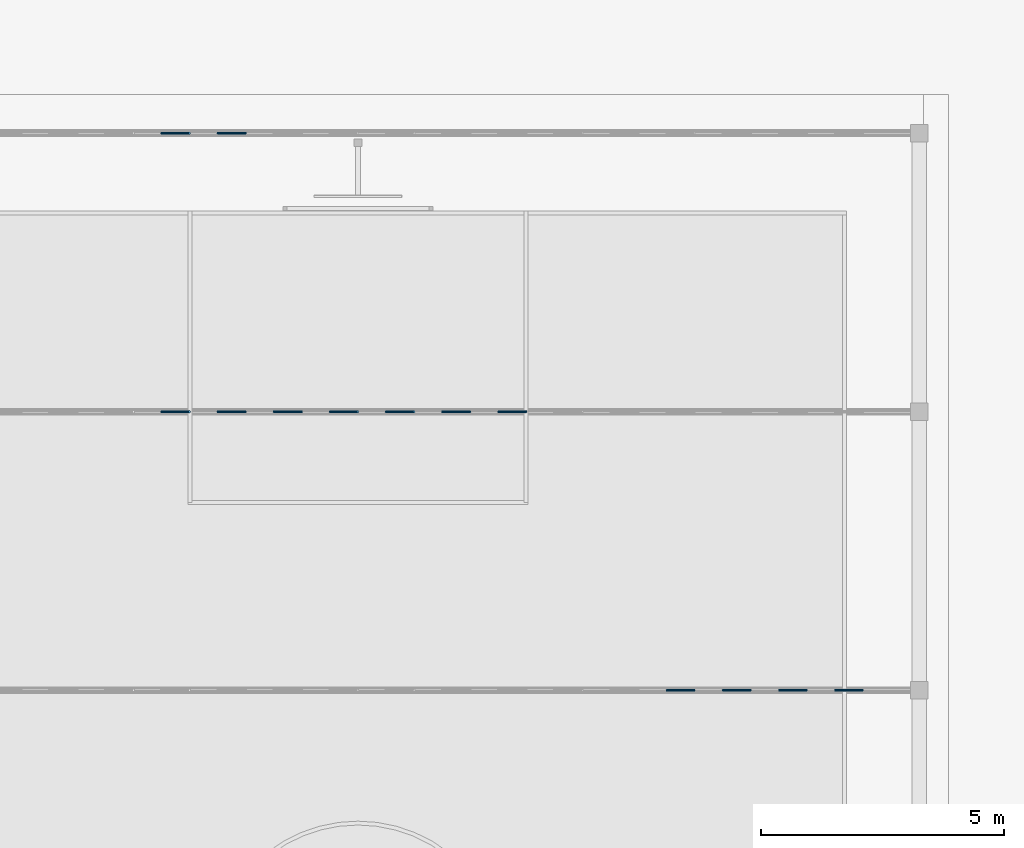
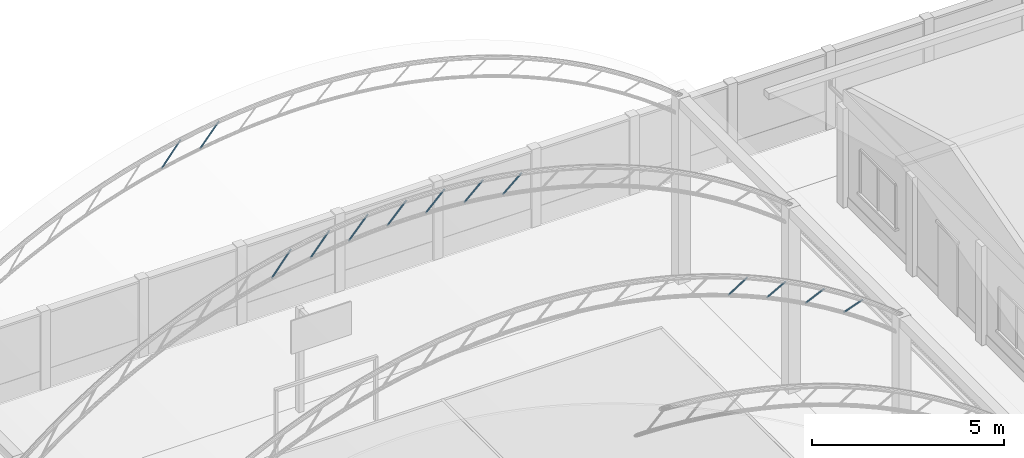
# One storey, part 29 of 151: 13 beams.
"""IFC2X3 building model written with IfcOpenShell, lengths in metres."""

from ifc_helpers import new_model, si_unit, origin, origin_with_axes, place, context, subcontext, project, spatial, faceted_brep, element, save


model = new_model("IFC2X3")

# Units and contexts
model_context = context("Model", 3, precision=1e-05, world=origin_with_axes())
body_context = subcontext(model_context, "Body", "Model", "MODEL_VIEW")
ifc_project = project(units=[si_unit("LENGTHUNIT", "METRE"), si_unit("AREAUNIT", "SQUARE_METRE"), si_unit("VOLUMEUNIT", "CUBIC_METRE"), si_unit("PLANEANGLEUNIT", "RADIAN")], contexts=[model_context])

# Site, building, storey
site_placement = place(None, origin_with_axes())
site = spatial("IfcSite", under=ifc_project, at=site_placement, Name="Predio Los Mangos - Morales, San Martín", CompositionType="ELEMENT")
building_placement = place(site_placement, origin())
building = spatial("IfcBuilding", under=site, at=building_placement, Name="Hogar de Refugio Temporal", CompositionType="ELEMENT")
storey_placement = place(building_placement, origin())
storey = spatial("IfcBuildingStorey", under=building, at=storey_placement, Name="NIVEL 1 (NPT +0.00)", CompositionType="ELEMENT", Elevation=0.0)

# Beams
beam_1_placement = place(storey_placement, origin())
element("IfcBeam", 1, at=beam_1_placement, inside=storey, Name="diag", ObjectType="Viga", context=body_context, shape_type="Brep", body=[
    faceted_brep([(21.3958, 115.555, 8.401), (21.9733, 115.555, 8.7715), (21.98, 115.5583, 8.7609), (21.4025, 115.5583, 8.3905), (21.3908, 115.5458, 8.4087), (21.9683, 115.5458, 8.7792), (21.389, 115.5333, 8.4115), (21.9665, 115.5333, 8.782), (21.3908, 115.5208, 8.4087), (21.9683, 115.5208, 8.7792), (21.3958, 115.5117, 8.401), (21.9733, 115.5117, 8.7715), (21.4025, 115.5083, 8.3905), (21.98, 115.5083, 8.7609), (21.4092, 115.5117, 8.38), (21.9867, 115.5117, 8.7504), (21.4142, 115.5208, 8.3723), (21.9917, 115.5208, 8.7427), (21.416, 115.5333, 8.3695), (21.9935, 115.5333, 8.7399), (21.4142, 115.5458, 8.3723), (21.9917, 115.5458, 8.7427), (21.4092, 115.555, 8.38), (21.9867, 115.555, 8.7504), (21.4013, 115.5371, 8.3923), (21.4025, 115.5376, 8.3905), (21.98, 115.5376, 8.7609), (21.9788, 115.5371, 8.7627), (21.4005, 115.5355, 8.3936), (21.978, 115.5355, 8.7641), (21.4002, 115.5333, 8.3941), (21.9777, 115.5333, 8.7645), (21.4005, 115.5312, 8.3936), (21.978, 115.5312, 8.7641), (21.4013, 115.5296, 8.3923), (21.9788, 115.5296, 8.7627), (21.4025, 115.529, 8.3905), (21.98, 115.529, 8.7609), (21.4037, 115.5296, 8.3887), (21.9812, 115.5296, 8.7591), (21.4045, 115.5312, 8.3874), (21.982, 115.5312, 8.7578), (21.4048, 115.5333, 8.3869), (21.9823, 115.5333, 8.7573), (21.4045, 115.5355, 8.3874), (21.982, 115.5355, 8.7578), (21.4037, 115.5371, 8.3887), (21.9812, 115.5371, 8.7591)], [[[0, 1, 2, 3]], [[4, 5, 1, 0]], [[6, 7, 5, 4]], [[8, 9, 7, 6]], [[10, 11, 9, 8]], [[12, 13, 11, 10]], [[14, 15, 13, 12]], [[16, 17, 15, 14]], [[18, 19, 17, 16]], [[20, 21, 19, 18]], [[22, 23, 21, 20]], [[3, 2, 23, 22]], [[24, 25, 26, 27]], [[28, 24, 27, 29]], [[30, 28, 29, 31]], [[32, 30, 31, 33]], [[34, 32, 33, 35]], [[36, 34, 35, 37]], [[38, 36, 37, 39]], [[40, 38, 39, 41]], [[42, 40, 41, 43]], [[44, 42, 43, 45]], [[46, 44, 45, 47]], [[25, 46, 47, 26]], [[0, 3, 25, 24]], [[9, 11, 35, 33]], [[19, 21, 45, 43]], [[12, 10, 34, 36]], [[22, 20, 44, 46]], [[5, 7, 31, 29]], [[15, 17, 41, 39]], [[2, 1, 27, 26]], [[8, 6, 30, 32]], [[18, 16, 40, 42]], [[11, 13, 37, 35]], [[21, 23, 47, 45]], [[4, 0, 24, 28]], [[14, 12, 36, 38]], [[3, 22, 46, 25]], [[7, 9, 33, 31]], [[17, 19, 43, 41]], [[23, 2, 26, 47]], [[10, 8, 32, 34]], [[20, 18, 42, 44]], [[1, 5, 29, 27]], [[13, 15, 39, 37]], [[6, 4, 28, 30]], [[16, 14, 38, 40]]]),
])
beam_2_placement = place(storey_placement, origin())
element("IfcBeam", 2, at=beam_2_placement, inside=storey, Name="diag", ObjectType="Viga", context=body_context, shape_type="Brep", body=[
    faceted_brep([(22.5514, 115.555, 7.9187), (23.1289, 115.555, 8.2407), (23.135, 115.5583, 8.2298), (22.5575, 115.5583, 7.9077), (22.547, 115.5458, 7.9267), (23.1245, 115.5458, 8.2487), (22.5453, 115.5333, 7.9296), (23.1228, 115.5333, 8.2517), (22.547, 115.5208, 7.9267), (23.1245, 115.5208, 8.2487), (22.5514, 115.5117, 7.9187), (23.1289, 115.5117, 8.2407), (22.5575, 115.5083, 7.9077), (23.135, 115.5083, 8.2298), (22.5636, 115.5117, 7.8968), (23.1411, 115.5117, 8.2189), (22.568, 115.5208, 7.8888), (23.1455, 115.5208, 8.2109), (22.5697, 115.5333, 7.8859), (23.1472, 115.5333, 8.208), (22.568, 115.5458, 7.8888), (23.1455, 115.5458, 8.2109), (22.5636, 115.555, 7.8968), (23.1411, 115.555, 8.2189), (22.5565, 115.5371, 7.9096), (22.5575, 115.5376, 7.9077), (23.135, 115.5376, 8.2298), (23.134, 115.5371, 8.2317), (22.5557, 115.5355, 7.911), (23.1332, 115.5355, 8.2331), (22.5554, 115.5333, 7.9115), (23.1329, 115.5333, 8.2336), (22.5557, 115.5312, 7.911), (23.1332, 115.5312, 8.2331), (22.5565, 115.5296, 7.9096), (23.134, 115.5296, 8.2317), (22.5575, 115.529, 7.9077), (23.135, 115.529, 8.2298), (22.5585, 115.5296, 7.9059), (23.136, 115.5296, 8.228), (22.5593, 115.5312, 7.9045), (23.1368, 115.5312, 8.2266), (22.5596, 115.5333, 7.904), (23.1371, 115.5333, 8.2261), (22.5593, 115.5355, 7.9045), (23.1368, 115.5355, 8.2266), (22.5585, 115.5371, 7.9059), (23.136, 115.5371, 8.228)], [[[0, 1, 2, 3]], [[4, 5, 1, 0]], [[6, 7, 5, 4]], [[8, 9, 7, 6]], [[10, 11, 9, 8]], [[12, 13, 11, 10]], [[14, 15, 13, 12]], [[16, 17, 15, 14]], [[18, 19, 17, 16]], [[20, 21, 19, 18]], [[22, 23, 21, 20]], [[3, 2, 23, 22]], [[24, 25, 26, 27]], [[28, 24, 27, 29]], [[30, 28, 29, 31]], [[32, 30, 31, 33]], [[34, 32, 33, 35]], [[36, 34, 35, 37]], [[38, 36, 37, 39]], [[40, 38, 39, 41]], [[42, 40, 41, 43]], [[44, 42, 43, 45]], [[46, 44, 45, 47]], [[25, 46, 47, 26]], [[0, 3, 25, 24]], [[9, 11, 35, 33]], [[19, 21, 45, 43]], [[12, 10, 34, 36]], [[22, 20, 44, 46]], [[5, 7, 31, 29]], [[15, 17, 41, 39]], [[2, 1, 27, 26]], [[8, 6, 30, 32]], [[18, 16, 40, 42]], [[11, 13, 37, 35]], [[21, 23, 47, 45]], [[4, 0, 24, 28]], [[14, 12, 36, 38]], [[3, 22, 46, 25]], [[7, 9, 33, 31]], [[17, 19, 43, 41]], [[23, 2, 26, 47]], [[10, 8, 32, 34]], [[20, 18, 42, 44]], [[1, 5, 29, 27]], [[13, 15, 39, 37]], [[6, 4, 28, 30]], [[16, 14, 38, 40]]]),
])
beam_3_placement = place(storey_placement, origin())
element("IfcBeam", 3, at=beam_3_placement, inside=storey, Name="diag", ObjectType="Viga", context=body_context, shape_type="Brep", body=[
    faceted_brep([(23.7072, 115.555, 7.3372), (24.2847, 115.555, 7.6056), (24.29, 115.5583, 7.5943), (23.7125, 115.5583, 7.3259), (23.7034, 115.5458, 7.3455), (24.2809, 115.5458, 7.6139), (23.702, 115.5333, 7.3485), (24.2795, 115.5333, 7.617), (23.7034, 115.5208, 7.3455), (24.2809, 115.5208, 7.6139), (23.7072, 115.5117, 7.3372), (24.2847, 115.5117, 7.6056), (23.7125, 115.5083, 7.3259), (24.29, 115.5083, 7.5943), (23.7178, 115.5117, 7.3145), (24.2953, 115.5117, 7.583), (23.7216, 115.5208, 7.3062), (24.2991, 115.5208, 7.5747), (23.723, 115.5333, 7.3032), (24.3005, 115.5333, 7.5716), (23.7216, 115.5458, 7.3062), (24.2991, 115.5458, 7.5747), (23.7178, 115.555, 7.3145), (24.2953, 115.555, 7.583), (23.7116, 115.5371, 7.3278), (23.7125, 115.5376, 7.3259), (24.29, 115.5376, 7.5943), (24.2891, 115.5371, 7.5963), (23.7109, 115.5355, 7.3292), (24.2884, 115.5355, 7.5977), (23.7107, 115.5333, 7.3298), (24.2882, 115.5333, 7.5982), (23.7109, 115.5312, 7.3292), (24.2884, 115.5312, 7.5977), (23.7116, 115.5296, 7.3278), (24.2891, 115.5296, 7.5963), (23.7125, 115.529, 7.3259), (24.29, 115.529, 7.5943), (23.7134, 115.5296, 7.3239), (24.2909, 115.5296, 7.5924), (23.7141, 115.5312, 7.3225), (24.2916, 115.5312, 7.5909), (23.7143, 115.5333, 7.322), (24.2918, 115.5333, 7.5904), (23.7141, 115.5355, 7.3225), (24.2916, 115.5355, 7.5909), (23.7134, 115.5371, 7.3239), (24.2909, 115.5371, 7.5924)], [[[0, 1, 2, 3]], [[4, 5, 1, 0]], [[6, 7, 5, 4]], [[8, 9, 7, 6]], [[10, 11, 9, 8]], [[12, 13, 11, 10]], [[14, 15, 13, 12]], [[16, 17, 15, 14]], [[18, 19, 17, 16]], [[20, 21, 19, 18]], [[22, 23, 21, 20]], [[3, 2, 23, 22]], [[24, 25, 26, 27]], [[28, 24, 27, 29]], [[30, 28, 29, 31]], [[32, 30, 31, 33]], [[34, 32, 33, 35]], [[36, 34, 35, 37]], [[38, 36, 37, 39]], [[40, 38, 39, 41]], [[42, 40, 41, 43]], [[44, 42, 43, 45]], [[46, 44, 45, 47]], [[25, 46, 47, 26]], [[0, 3, 25, 24]], [[9, 11, 35, 33]], [[19, 21, 45, 43]], [[12, 10, 34, 36]], [[22, 20, 44, 46]], [[5, 7, 31, 29]], [[15, 17, 41, 39]], [[2, 1, 27, 26]], [[8, 6, 30, 32]], [[18, 16, 40, 42]], [[11, 13, 37, 35]], [[21, 23, 47, 45]], [[4, 0, 24, 28]], [[14, 12, 36, 38]], [[3, 22, 46, 25]], [[7, 9, 33, 31]], [[17, 19, 43, 41]], [[23, 2, 26, 47]], [[10, 8, 32, 34]], [[20, 18, 42, 44]], [[1, 5, 29, 27]], [[13, 15, 39, 37]], [[6, 4, 28, 30]], [[16, 14, 38, 40]]]),
])
beam_4_placement = place(storey_placement, origin())
element("IfcBeam", 4, at=beam_4_placement, inside=storey, Name="diag", ObjectType="Viga", context=body_context, shape_type="Brep", body=[
    faceted_brep([(24.8633, 115.555, 6.6451), (25.4408, 115.555, 6.8526), (25.445, 115.5583, 6.8408), (24.8675, 115.5583, 6.6333), (24.8602, 115.5458, 6.6537), (25.4377, 115.5458, 6.8612), (24.859, 115.5333, 6.6569), (25.4365, 115.5333, 6.8643), (24.8602, 115.5208, 6.6537), (25.4377, 115.5208, 6.8612), (24.8633, 115.5117, 6.6451), (25.4408, 115.5117, 6.8526), (24.8675, 115.5083, 6.6333), (25.445, 115.5083, 6.8408), (24.8717, 115.5117, 6.6216), (25.4492, 115.5117, 6.829), (24.8748, 115.5208, 6.613), (25.4523, 115.5208, 6.8204), (24.876, 115.5333, 6.6098), (25.4535, 115.5333, 6.8173), (24.8748, 115.5458, 6.613), (25.4523, 115.5458, 6.8204), (24.8717, 115.555, 6.6216), (25.4492, 115.555, 6.829), (24.8668, 115.5371, 6.6354), (24.8675, 115.5376, 6.6333), (25.445, 115.5376, 6.8408), (25.4443, 115.5371, 6.8428), (24.8662, 115.5355, 6.6368), (25.4437, 115.5355, 6.8443), (24.866, 115.5333, 6.6374), (25.4435, 115.5333, 6.8449), (24.8662, 115.5312, 6.6368), (25.4437, 115.5312, 6.8443), (24.8668, 115.5296, 6.6354), (25.4443, 115.5296, 6.8428), (24.8675, 115.529, 6.6333), (25.445, 115.529, 6.8408), (24.8682, 115.5296, 6.6313), (25.4457, 115.5296, 6.8388), (24.8688, 115.5312, 6.6298), (25.4463, 115.5312, 6.8373), (24.869, 115.5333, 6.6293), (25.4465, 115.5333, 6.8368), (24.8688, 115.5355, 6.6298), (25.4463, 115.5355, 6.8373), (24.8682, 115.5371, 6.6313), (25.4457, 115.5371, 6.8388)], [[[0, 1, 2, 3]], [[4, 5, 1, 0]], [[6, 7, 5, 4]], [[8, 9, 7, 6]], [[10, 11, 9, 8]], [[12, 13, 11, 10]], [[14, 15, 13, 12]], [[16, 17, 15, 14]], [[18, 19, 17, 16]], [[20, 21, 19, 18]], [[22, 23, 21, 20]], [[3, 2, 23, 22]], [[24, 25, 26, 27]], [[28, 24, 27, 29]], [[30, 28, 29, 31]], [[32, 30, 31, 33]], [[34, 32, 33, 35]], [[36, 34, 35, 37]], [[38, 36, 37, 39]], [[40, 38, 39, 41]], [[42, 40, 41, 43]], [[44, 42, 43, 45]], [[46, 44, 45, 47]], [[25, 46, 47, 26]], [[0, 3, 25, 24]], [[9, 11, 35, 33]], [[19, 21, 45, 43]], [[12, 10, 34, 36]], [[22, 20, 44, 46]], [[5, 7, 31, 29]], [[15, 17, 41, 39]], [[2, 1, 27, 26]], [[8, 6, 30, 32]], [[18, 16, 40, 42]], [[11, 13, 37, 35]], [[21, 23, 47, 45]], [[4, 0, 24, 28]], [[14, 12, 36, 38]], [[3, 22, 46, 25]], [[7, 9, 33, 31]], [[17, 19, 43, 41]], [[23, 2, 26, 47]], [[10, 8, 32, 34]], [[20, 18, 42, 44]], [[1, 5, 29, 27]], [[13, 15, 39, 37]], [[6, 4, 28, 30]], [[16, 14, 38, 40]]]),
])
beam_5_placement = place(storey_placement, origin())
element("IfcBeam", 5, at=beam_5_placement, inside=storey, Name="diag", ObjectType="Viga", context=body_context, shape_type="Brep", body=[
    faceted_brep([(10.9977, 121.2883, 9.0975), (11.5752, 121.2883, 9.8208), (11.585, 121.2917, 9.813), (11.0075, 121.2917, 9.0897), (10.9906, 121.2792, 9.1032), (11.5681, 121.2792, 9.8265), (10.988, 121.2667, 9.1053), (11.5655, 121.2667, 9.8286), (10.9906, 121.2542, 9.1032), (11.5681, 121.2542, 9.8265), (10.9977, 121.245, 9.0975), (11.5752, 121.245, 9.8208), (11.0075, 121.2417, 9.0897), (11.585, 121.2417, 9.813), (11.0173, 121.245, 9.0819), (11.5948, 121.245, 9.8052), (11.0244, 121.2542, 9.0762), (11.6019, 121.2542, 9.7995), (11.027, 121.2667, 9.0741), (11.6045, 121.2667, 9.7974), (11.0244, 121.2792, 9.0762), (11.6019, 121.2792, 9.7995), (11.0173, 121.2883, 9.0819), (11.5948, 121.2883, 9.8052), (11.0058, 121.2704, 9.091), (11.0075, 121.271, 9.0897), (11.585, 121.271, 9.813), (11.5833, 121.2704, 9.8143), (11.0046, 121.2688, 9.092), (11.5821, 121.2688, 9.8153), (11.0041, 121.2667, 9.0924), (11.5816, 121.2667, 9.8157), (11.0046, 121.2645, 9.092), (11.5821, 121.2645, 9.8153), (11.0058, 121.2629, 9.091), (11.5833, 121.2629, 9.8143), (11.0075, 121.2624, 9.0897), (11.585, 121.2624, 9.813), (11.0092, 121.2629, 9.0884), (11.5867, 121.2629, 9.8116), (11.0104, 121.2645, 9.0874), (11.5879, 121.2645, 9.8107), (11.0109, 121.2667, 9.087), (11.5884, 121.2667, 9.8103), (11.0104, 121.2688, 9.0874), (11.5879, 121.2688, 9.8107), (11.0092, 121.2704, 9.0884), (11.5867, 121.2704, 9.8116)], [[[0, 1, 2, 3]], [[4, 5, 1, 0]], [[6, 7, 5, 4]], [[8, 9, 7, 6]], [[10, 11, 9, 8]], [[12, 13, 11, 10]], [[14, 15, 13, 12]], [[16, 17, 15, 14]], [[18, 19, 17, 16]], [[20, 21, 19, 18]], [[22, 23, 21, 20]], [[3, 2, 23, 22]], [[24, 25, 26, 27]], [[28, 24, 27, 29]], [[30, 28, 29, 31]], [[32, 30, 31, 33]], [[34, 32, 33, 35]], [[36, 34, 35, 37]], [[38, 36, 37, 39]], [[40, 38, 39, 41]], [[42, 40, 41, 43]], [[44, 42, 43, 45]], [[46, 44, 45, 47]], [[25, 46, 47, 26]], [[20, 18, 42, 44]], [[1, 5, 29, 27]], [[13, 15, 39, 37]], [[6, 4, 28, 30]], [[16, 14, 38, 40]], [[0, 3, 25, 24]], [[9, 11, 35, 33]], [[19, 21, 45, 43]], [[12, 10, 34, 36]], [[22, 20, 44, 46]], [[5, 7, 31, 29]], [[15, 17, 41, 39]], [[2, 1, 27, 26]], [[8, 6, 30, 32]], [[18, 16, 40, 42]], [[11, 13, 37, 35]], [[21, 23, 47, 45]], [[4, 0, 24, 28]], [[14, 12, 36, 38]], [[3, 22, 46, 25]], [[7, 9, 33, 31]], [[17, 19, 43, 41]], [[23, 2, 26, 47]], [[10, 8, 32, 34]]]),
])
beam_6_placement = place(storey_placement, origin())
element("IfcBeam", 6, at=beam_6_placement, inside=storey, Name="diag", ObjectType="Viga", context=body_context, shape_type="Brep", body=[
    faceted_brep([(12.1529, 121.2883, 9.3247), (12.7304, 121.2883, 10.0091), (12.74, 121.2917, 10.001), (12.1625, 121.2917, 9.3166), (12.146, 121.2792, 9.3306), (12.7235, 121.2792, 10.015), (12.1434, 121.2667, 9.3328), (12.7209, 121.2667, 10.0171), (12.146, 121.2542, 9.3306), (12.7235, 121.2542, 10.015), (12.1529, 121.245, 9.3247), (12.7304, 121.245, 10.0091), (12.1625, 121.2417, 9.3166), (12.74, 121.2417, 10.001), (12.1721, 121.245, 9.3086), (12.7496, 121.245, 9.9929), (12.179, 121.2542, 9.3027), (12.7565, 121.2542, 9.987), (12.1816, 121.2667, 9.3005), (12.7591, 121.2667, 9.9849), (12.179, 121.2792, 9.3027), (12.7565, 121.2792, 9.987), (12.1721, 121.2883, 9.3086), (12.7496, 121.2883, 9.9929), (12.1609, 121.2704, 9.318), (12.1625, 121.271, 9.3166), (12.74, 121.271, 10.001), (12.7384, 121.2704, 10.0024), (12.1597, 121.2688, 9.319), (12.7372, 121.2688, 10.0034), (12.1592, 121.2667, 9.3194), (12.7367, 121.2667, 10.0038), (12.1597, 121.2645, 9.319), (12.7372, 121.2645, 10.0034), (12.1609, 121.2629, 9.318), (12.7384, 121.2629, 10.0024), (12.1625, 121.2624, 9.3166), (12.74, 121.2624, 10.001), (12.1641, 121.2629, 9.3153), (12.7416, 121.2629, 9.9996), (12.1653, 121.2645, 9.3142), (12.7428, 121.2645, 9.9986), (12.1658, 121.2667, 9.3139), (12.7433, 121.2667, 9.9982), (12.1653, 121.2688, 9.3142), (12.7428, 121.2688, 9.9986), (12.1641, 121.2704, 9.3153), (12.7416, 121.2704, 9.9996)], [[[0, 1, 2, 3]], [[4, 5, 1, 0]], [[6, 7, 5, 4]], [[8, 9, 7, 6]], [[10, 11, 9, 8]], [[12, 13, 11, 10]], [[14, 15, 13, 12]], [[16, 17, 15, 14]], [[18, 19, 17, 16]], [[20, 21, 19, 18]], [[22, 23, 21, 20]], [[3, 2, 23, 22]], [[24, 25, 26, 27]], [[28, 24, 27, 29]], [[30, 28, 29, 31]], [[32, 30, 31, 33]], [[34, 32, 33, 35]], [[36, 34, 35, 37]], [[38, 36, 37, 39]], [[40, 38, 39, 41]], [[42, 40, 41, 43]], [[44, 42, 43, 45]], [[46, 44, 45, 47]], [[25, 46, 47, 26]], [[12, 10, 34, 36]], [[22, 20, 44, 46]], [[5, 7, 31, 29]], [[15, 17, 41, 39]], [[2, 1, 27, 26]], [[8, 6, 30, 32]], [[18, 16, 40, 42]], [[11, 13, 37, 35]], [[21, 23, 47, 45]], [[4, 0, 24, 28]], [[14, 12, 36, 38]], [[3, 22, 46, 25]], [[7, 9, 33, 31]], [[17, 19, 43, 41]], [[23, 2, 26, 47]], [[10, 8, 32, 34]], [[20, 18, 42, 44]], [[1, 5, 29, 27]], [[13, 15, 39, 37]], [[6, 4, 28, 30]], [[16, 14, 38, 40]], [[0, 3, 25, 24]], [[9, 11, 35, 33]], [[19, 21, 45, 43]]]),
])
beam_7_placement = place(storey_placement, origin())
element("IfcBeam", 7, at=beam_7_placement, inside=storey, Name="diag", ObjectType="Viga", context=body_context, shape_type="Brep", body=[
    faceted_brep([(13.3082, 121.2883, 9.4747), (13.8857, 121.2883, 10.1212), (13.895, 121.2917, 10.1129), (13.3175, 121.2917, 9.4663), (13.3014, 121.2792, 9.4808), (13.8789, 121.2792, 10.1273), (13.2989, 121.2667, 9.483), (13.8764, 121.2667, 10.1295), (13.3014, 121.2542, 9.4808), (13.8789, 121.2542, 10.1273), (13.3082, 121.245, 9.4747), (13.8857, 121.245, 10.1212), (13.3175, 121.2417, 9.4663), (13.895, 121.2417, 10.1129), (13.3268, 121.245, 9.458), (13.9043, 121.245, 10.1045), (13.3336, 121.2542, 9.4519), (13.9111, 121.2542, 10.0984), (13.3361, 121.2667, 9.4497), (13.9136, 121.2667, 10.0962), (13.3336, 121.2792, 9.4519), (13.9111, 121.2792, 10.0984), (13.3268, 121.2883, 9.458), (13.9043, 121.2883, 10.1045), (13.3159, 121.2704, 9.4678), (13.3175, 121.271, 9.4663), (13.895, 121.271, 10.1129), (13.8934, 121.2704, 10.1143), (13.3147, 121.2688, 9.4688), (13.8922, 121.2688, 10.1153), (13.3143, 121.2667, 9.4692), (13.8918, 121.2667, 10.1157), (13.3147, 121.2645, 9.4688), (13.8922, 121.2645, 10.1153), (13.3159, 121.2629, 9.4678), (13.8934, 121.2629, 10.1143), (13.3175, 121.2624, 9.4663), (13.895, 121.2624, 10.1129), (13.3191, 121.2629, 9.4649), (13.8966, 121.2629, 10.1114), (13.3203, 121.2645, 9.4639), (13.8978, 121.2645, 10.1104), (13.3207, 121.2667, 9.4635), (13.8982, 121.2667, 10.11), (13.3203, 121.2688, 9.4639), (13.8978, 121.2688, 10.1104), (13.3191, 121.2704, 9.4649), (13.8966, 121.2704, 10.1114)], [[[0, 1, 2, 3]], [[4, 5, 1, 0]], [[6, 7, 5, 4]], [[8, 9, 7, 6]], [[10, 11, 9, 8]], [[12, 13, 11, 10]], [[14, 15, 13, 12]], [[16, 17, 15, 14]], [[18, 19, 17, 16]], [[20, 21, 19, 18]], [[22, 23, 21, 20]], [[3, 2, 23, 22]], [[24, 25, 26, 27]], [[28, 24, 27, 29]], [[30, 28, 29, 31]], [[32, 30, 31, 33]], [[34, 32, 33, 35]], [[36, 34, 35, 37]], [[38, 36, 37, 39]], [[40, 38, 39, 41]], [[42, 40, 41, 43]], [[44, 42, 43, 45]], [[46, 44, 45, 47]], [[25, 46, 47, 26]], [[12, 10, 34, 36]], [[22, 20, 44, 46]], [[5, 7, 31, 29]], [[15, 17, 41, 39]], [[2, 1, 27, 26]], [[8, 6, 30, 32]], [[18, 16, 40, 42]], [[11, 13, 37, 35]], [[21, 23, 47, 45]], [[4, 0, 24, 28]], [[14, 12, 36, 38]], [[3, 22, 46, 25]], [[7, 9, 33, 31]], [[17, 19, 43, 41]], [[23, 2, 26, 47]], [[10, 8, 32, 34]], [[20, 18, 42, 44]], [[1, 5, 29, 27]], [[13, 15, 39, 37]], [[6, 4, 28, 30]], [[16, 14, 38, 40]], [[0, 3, 25, 24]], [[9, 11, 35, 33]], [[19, 21, 45, 43]]]),
])
beam_8_placement = place(storey_placement, origin())
element("IfcBeam", 8, at=beam_8_placement, inside=storey, Name="diag", ObjectType="Viga", context=body_context, shape_type="Brep", body=[
    faceted_brep([(14.4634, 121.2883, 9.5493), (15.0409, 121.2883, 10.1586), (15.05, 121.2917, 10.15), (14.4725, 121.2917, 9.5407), (14.4568, 121.2792, 9.5556), (15.0343, 121.2792, 10.1649), (14.4544, 121.2667, 9.5579), (15.0319, 121.2667, 10.1672), (14.4568, 121.2542, 9.5556), (15.0343, 121.2542, 10.1649), (14.4634, 121.245, 9.5493), (15.0409, 121.245, 10.1586), (14.4725, 121.2417, 9.5407), (15.05, 121.2417, 10.15), (14.4816, 121.245, 9.5321), (15.0591, 121.245, 10.1414), (14.4882, 121.2542, 9.5258), (15.0657, 121.2542, 10.1351), (14.4906, 121.2667, 9.5235), (15.0681, 121.2667, 10.1328), (14.4882, 121.2792, 9.5258), (15.0657, 121.2792, 10.1351), (14.4816, 121.2883, 9.5321), (15.0591, 121.2883, 10.1414), (14.4709, 121.2704, 9.5422), (14.4725, 121.271, 9.5407), (15.05, 121.271, 10.15), (15.0484, 121.2704, 10.1515), (14.4698, 121.2688, 9.5433), (15.0473, 121.2688, 10.1526), (14.4694, 121.2667, 9.5437), (15.0469, 121.2667, 10.153), (14.4698, 121.2645, 9.5433), (15.0473, 121.2645, 10.1526), (14.4709, 121.2629, 9.5422), (15.0484, 121.2629, 10.1515), (14.4725, 121.2624, 9.5407), (15.05, 121.2624, 10.15), (14.4741, 121.2629, 9.5392), (15.0516, 121.2629, 10.1485), (14.4752, 121.2645, 9.5382), (15.0527, 121.2645, 10.1474), (14.4756, 121.2667, 9.5378), (15.0531, 121.2667, 10.147), (14.4752, 121.2688, 9.5382), (15.0527, 121.2688, 10.1474), (14.4741, 121.2704, 9.5392), (15.0516, 121.2704, 10.1485)], [[[0, 1, 2, 3]], [[4, 5, 1, 0]], [[6, 7, 5, 4]], [[8, 9, 7, 6]], [[10, 11, 9, 8]], [[12, 13, 11, 10]], [[14, 15, 13, 12]], [[16, 17, 15, 14]], [[18, 19, 17, 16]], [[20, 21, 19, 18]], [[22, 23, 21, 20]], [[3, 2, 23, 22]], [[24, 25, 26, 27]], [[28, 24, 27, 29]], [[30, 28, 29, 31]], [[32, 30, 31, 33]], [[34, 32, 33, 35]], [[36, 34, 35, 37]], [[38, 36, 37, 39]], [[40, 38, 39, 41]], [[42, 40, 41, 43]], [[44, 42, 43, 45]], [[46, 44, 45, 47]], [[25, 46, 47, 26]], [[12, 10, 34, 36]], [[22, 20, 44, 46]], [[5, 7, 31, 29]], [[15, 17, 41, 39]], [[2, 1, 27, 26]], [[8, 6, 30, 32]], [[18, 16, 40, 42]], [[11, 13, 37, 35]], [[21, 23, 47, 45]], [[4, 0, 24, 28]], [[14, 12, 36, 38]], [[3, 22, 46, 25]], [[7, 9, 33, 31]], [[17, 19, 43, 41]], [[23, 2, 26, 47]], [[10, 8, 32, 34]], [[20, 18, 42, 44]], [[1, 5, 29, 27]], [[13, 15, 39, 37]], [[6, 4, 28, 30]], [[16, 14, 38, 40]], [[0, 3, 25, 24]], [[9, 11, 35, 33]], [[19, 21, 45, 43]]]),
])
beam_9_placement = place(storey_placement, origin())
element("IfcBeam", 9, at=beam_9_placement, inside=storey, Name="diag", ObjectType="Viga", context=body_context, shape_type="Brep", body=[
    faceted_brep([(15.6187, 121.2883, 9.5496), (16.1962, 121.2883, 10.1217), (16.205, 121.2917, 10.1129), (15.6275, 121.2917, 9.5407), (15.6123, 121.2792, 9.5561), (16.1898, 121.2792, 10.1282), (15.6099, 121.2667, 9.5585), (16.1874, 121.2667, 10.1306), (15.6123, 121.2542, 9.5561), (16.1898, 121.2542, 10.1282), (15.6187, 121.245, 9.5496), (16.1962, 121.245, 10.1217), (15.6275, 121.2417, 9.5407), (16.205, 121.2417, 10.1129), (15.6363, 121.245, 9.5318), (16.2138, 121.245, 10.104), (15.6427, 121.2542, 9.5253), (16.2202, 121.2542, 10.0975), (15.6451, 121.2667, 9.523), (16.2226, 121.2667, 10.0951), (15.6427, 121.2792, 9.5253), (16.2202, 121.2792, 10.0975), (15.6363, 121.2883, 9.5318), (16.2138, 121.2883, 10.104), (15.626, 121.2704, 9.5422), (15.6275, 121.271, 9.5407), (16.205, 121.271, 10.1129), (16.2035, 121.2704, 10.1144), (15.6249, 121.2688, 9.5434), (16.2024, 121.2688, 10.1155), (15.6245, 121.2667, 9.5438), (16.202, 121.2667, 10.1159), (15.6249, 121.2645, 9.5434), (16.2024, 121.2645, 10.1155), (15.626, 121.2629, 9.5422), (16.2035, 121.2629, 10.1144), (15.6275, 121.2624, 9.5407), (16.205, 121.2624, 10.1129), (15.629, 121.2629, 9.5392), (16.2065, 121.2629, 10.1113), (15.6301, 121.2645, 9.5381), (16.2076, 121.2645, 10.1102), (15.6305, 121.2667, 9.5377), (16.208, 121.2667, 10.1098), (15.6301, 121.2688, 9.5381), (16.2076, 121.2688, 10.1102), (15.629, 121.2704, 9.5392), (16.2065, 121.2704, 10.1113)], [[[0, 1, 2, 3]], [[4, 5, 1, 0]], [[6, 7, 5, 4]], [[8, 9, 7, 6]], [[10, 11, 9, 8]], [[12, 13, 11, 10]], [[14, 15, 13, 12]], [[16, 17, 15, 14]], [[18, 19, 17, 16]], [[20, 21, 19, 18]], [[22, 23, 21, 20]], [[3, 2, 23, 22]], [[24, 25, 26, 27]], [[28, 24, 27, 29]], [[30, 28, 29, 31]], [[32, 30, 31, 33]], [[34, 32, 33, 35]], [[36, 34, 35, 37]], [[38, 36, 37, 39]], [[40, 38, 39, 41]], [[42, 40, 41, 43]], [[44, 42, 43, 45]], [[46, 44, 45, 47]], [[25, 46, 47, 26]], [[12, 10, 34, 36]], [[22, 20, 44, 46]], [[5, 7, 31, 29]], [[15, 17, 41, 39]], [[2, 1, 27, 26]], [[8, 6, 30, 32]], [[18, 16, 40, 42]], [[11, 13, 37, 35]], [[21, 23, 47, 45]], [[4, 0, 24, 28]], [[14, 12, 36, 38]], [[3, 22, 46, 25]], [[7, 9, 33, 31]], [[17, 19, 43, 41]], [[23, 2, 26, 47]], [[10, 8, 32, 34]], [[20, 18, 42, 44]], [[1, 5, 29, 27]], [[13, 15, 39, 37]], [[6, 4, 28, 30]], [[16, 14, 38, 40]], [[0, 3, 25, 24]], [[9, 11, 35, 33]], [[19, 21, 45, 43]]]),
])
beam_10_placement = place(storey_placement, origin())
element("IfcBeam", 10, at=beam_10_placement, inside=storey, Name="diag", ObjectType="Viga", context=body_context, shape_type="Brep", body=[
    faceted_brep([(16.774, 121.2883, 9.4755), (17.3515, 121.2883, 10.0102), (17.36, 121.2917, 10.001), (16.7825, 121.2917, 9.4663), (16.7678, 121.2792, 9.4822), (17.3453, 121.2792, 10.0169), (16.7655, 121.2667, 9.4847), (17.343, 121.2667, 10.0193), (16.7678, 121.2542, 9.4822), (17.3453, 121.2542, 10.0169), (16.774, 121.245, 9.4755), (17.3515, 121.245, 10.0102), (16.7825, 121.2417, 9.4663), (17.36, 121.2417, 10.001), (16.791, 121.245, 9.4572), (17.3685, 121.245, 9.9918), (16.7972, 121.2542, 9.4505), (17.3747, 121.2542, 9.9851), (16.7995, 121.2667, 9.448), (17.377, 121.2667, 9.9827), (16.7972, 121.2792, 9.4505), (17.3747, 121.2792, 9.9851), (16.791, 121.2883, 9.4572), (17.3685, 121.2883, 9.9918), (16.781, 121.2704, 9.4679), (16.7825, 121.271, 9.4663), (17.36, 121.271, 10.001), (17.3585, 121.2704, 10.0026), (16.78, 121.2688, 9.4691), (17.3575, 121.2688, 10.0037), (16.7796, 121.2667, 9.4695), (17.3571, 121.2667, 10.0042), (16.78, 121.2645, 9.4691), (17.3575, 121.2645, 10.0037), (16.781, 121.2629, 9.4679), (17.3585, 121.2629, 10.0026), (16.7825, 121.2624, 9.4663), (17.36, 121.2624, 10.001), (16.784, 121.2629, 9.4648), (17.3615, 121.2629, 9.9994), (16.785, 121.2645, 9.4636), (17.3625, 121.2645, 9.9983), (16.7854, 121.2667, 9.4632), (17.3629, 121.2667, 9.9979), (16.785, 121.2688, 9.4636), (17.3625, 121.2688, 9.9983), (16.784, 121.2704, 9.4648), (17.3615, 121.2704, 9.9994)], [[[0, 1, 2, 3]], [[4, 5, 1, 0]], [[6, 7, 5, 4]], [[8, 9, 7, 6]], [[10, 11, 9, 8]], [[12, 13, 11, 10]], [[14, 15, 13, 12]], [[16, 17, 15, 14]], [[18, 19, 17, 16]], [[20, 21, 19, 18]], [[22, 23, 21, 20]], [[3, 2, 23, 22]], [[24, 25, 26, 27]], [[28, 24, 27, 29]], [[30, 28, 29, 31]], [[32, 30, 31, 33]], [[34, 32, 33, 35]], [[36, 34, 35, 37]], [[38, 36, 37, 39]], [[40, 38, 39, 41]], [[42, 40, 41, 43]], [[44, 42, 43, 45]], [[46, 44, 45, 47]], [[25, 46, 47, 26]], [[12, 10, 34, 36]], [[22, 20, 44, 46]], [[5, 7, 31, 29]], [[15, 17, 41, 39]], [[2, 1, 27, 26]], [[8, 6, 30, 32]], [[18, 16, 40, 42]], [[11, 13, 37, 35]], [[21, 23, 47, 45]], [[4, 0, 24, 28]], [[14, 12, 36, 38]], [[3, 22, 46, 25]], [[7, 9, 33, 31]], [[17, 19, 43, 41]], [[23, 2, 26, 47]], [[10, 8, 32, 34]], [[20, 18, 42, 44]], [[1, 5, 29, 27]], [[13, 15, 39, 37]], [[6, 4, 28, 30]], [[16, 14, 38, 40]], [[0, 3, 25, 24]], [[9, 11, 35, 33]], [[19, 21, 45, 43]]]),
])
beam_11_placement = place(storey_placement, origin())
element("IfcBeam", 11, at=beam_11_placement, inside=storey, Name="diag", ObjectType="Viga", context=body_context, shape_type="Brep", body=[
    faceted_brep([(17.9294, 121.2883, 9.3261), (18.5069, 121.2883, 9.8225), (18.515, 121.2917, 9.813), (17.9375, 121.2917, 9.3166), (17.9234, 121.2792, 9.3331), (18.5009, 121.2792, 9.8294), (17.9212, 121.2667, 9.3356), (18.4987, 121.2667, 9.8319), (17.9234, 121.2542, 9.3331), (18.5009, 121.2542, 9.8294), (17.9294, 121.245, 9.3261), (18.5069, 121.245, 9.8225), (17.9375, 121.2417, 9.3166), (18.515, 121.2417, 9.813), (17.9456, 121.245, 9.3072), (18.5231, 121.245, 9.8035), (17.9516, 121.2542, 9.3002), (18.5291, 121.2542, 9.7966), (17.9538, 121.2667, 9.2977), (18.5313, 121.2667, 9.794), (17.9516, 121.2792, 9.3002), (18.5291, 121.2792, 9.7966), (17.9456, 121.2883, 9.3072), (18.5231, 121.2883, 9.8035), (17.9361, 121.2704, 9.3183), (17.9375, 121.271, 9.3166), (18.515, 121.271, 9.813), (18.5136, 121.2704, 9.8146), (17.9351, 121.2688, 9.3195), (18.5126, 121.2688, 9.8158), (17.9347, 121.2667, 9.3199), (18.5122, 121.2667, 9.8162), (17.9351, 121.2645, 9.3195), (18.5126, 121.2645, 9.8158), (17.9361, 121.2629, 9.3183), (18.5136, 121.2629, 9.8146), (17.9375, 121.2624, 9.3166), (18.515, 121.2624, 9.813), (17.9389, 121.2629, 9.315), (18.5164, 121.2629, 9.8114), (17.9399, 121.2645, 9.3138), (18.5174, 121.2645, 9.8102), (17.9403, 121.2667, 9.3134), (18.5178, 121.2667, 9.8097), (17.9399, 121.2688, 9.3138), (18.5174, 121.2688, 9.8102), (17.9389, 121.2704, 9.315), (18.5164, 121.2704, 9.8114)], [[[0, 1, 2, 3]], [[4, 5, 1, 0]], [[6, 7, 5, 4]], [[8, 9, 7, 6]], [[10, 11, 9, 8]], [[12, 13, 11, 10]], [[14, 15, 13, 12]], [[16, 17, 15, 14]], [[18, 19, 17, 16]], [[20, 21, 19, 18]], [[22, 23, 21, 20]], [[3, 2, 23, 22]], [[24, 25, 26, 27]], [[28, 24, 27, 29]], [[30, 28, 29, 31]], [[32, 30, 31, 33]], [[34, 32, 33, 35]], [[36, 34, 35, 37]], [[38, 36, 37, 39]], [[40, 38, 39, 41]], [[42, 40, 41, 43]], [[44, 42, 43, 45]], [[46, 44, 45, 47]], [[25, 46, 47, 26]], [[12, 10, 34, 36]], [[22, 20, 44, 46]], [[5, 7, 31, 29]], [[15, 17, 41, 39]], [[2, 1, 27, 26]], [[8, 6, 30, 32]], [[18, 16, 40, 42]], [[11, 13, 37, 35]], [[21, 23, 47, 45]], [[4, 0, 24, 28]], [[14, 12, 36, 38]], [[3, 22, 46, 25]], [[7, 9, 33, 31]], [[17, 19, 43, 41]], [[23, 2, 26, 47]], [[10, 8, 32, 34]], [[20, 18, 42, 44]], [[1, 5, 29, 27]], [[13, 15, 39, 37]], [[6, 4, 28, 30]], [[16, 14, 38, 40]], [[0, 3, 25, 24]], [[9, 11, 35, 33]], [[19, 21, 45, 43]]]),
])
beam_12_placement = place(storey_placement, origin())
element("IfcBeam", 12, at=beam_12_placement, inside=storey, Name="diag", ObjectType="Viga", context=body_context, shape_type="Brep", body=[
    faceted_brep([(10.9977, 127.0217, 9.0975), (11.5752, 127.0217, 9.8208), (11.585, 127.025, 9.813), (11.0075, 127.025, 9.0897), (10.9906, 127.0125, 9.1032), (11.5681, 127.0125, 9.8265), (10.988, 127.0, 9.1053), (11.5655, 127.0, 9.8286), (10.9906, 126.9875, 9.1032), (11.5681, 126.9875, 9.8265), (10.9977, 126.9783, 9.0975), (11.5752, 126.9783, 9.8208), (11.0075, 126.975, 9.0897), (11.585, 126.975, 9.813), (11.0173, 126.9783, 9.0819), (11.5948, 126.9783, 9.8052), (11.0244, 126.9875, 9.0762), (11.6019, 126.9875, 9.7995), (11.027, 127.0, 9.0741), (11.6045, 127.0, 9.7974), (11.0244, 127.0125, 9.0762), (11.6019, 127.0125, 9.7995), (11.0173, 127.0217, 9.0819), (11.5948, 127.0217, 9.8052), (11.0058, 127.0037, 9.091), (11.0075, 127.0043, 9.0897), (11.585, 127.0043, 9.813), (11.5833, 127.0037, 9.8143), (11.0046, 127.0021, 9.092), (11.5821, 127.0021, 9.8153), (11.0041, 127.0, 9.0924), (11.5816, 127.0, 9.8157), (11.0046, 126.9979, 9.092), (11.5821, 126.9979, 9.8153), (11.0058, 126.9963, 9.091), (11.5833, 126.9963, 9.8143), (11.0075, 126.9957, 9.0897), (11.585, 126.9957, 9.813), (11.0092, 126.9963, 9.0884), (11.5867, 126.9963, 9.8116), (11.0104, 126.9979, 9.0874), (11.5879, 126.9979, 9.8107), (11.0109, 127.0, 9.087), (11.5884, 127.0, 9.8103), (11.0104, 127.0021, 9.0874), (11.5879, 127.0021, 9.8107), (11.0092, 127.0037, 9.0884), (11.5867, 127.0037, 9.8116)], [[[0, 1, 2, 3]], [[4, 5, 1, 0]], [[6, 7, 5, 4]], [[8, 9, 7, 6]], [[10, 11, 9, 8]], [[12, 13, 11, 10]], [[14, 15, 13, 12]], [[16, 17, 15, 14]], [[18, 19, 17, 16]], [[20, 21, 19, 18]], [[22, 23, 21, 20]], [[3, 2, 23, 22]], [[24, 25, 26, 27]], [[28, 24, 27, 29]], [[30, 28, 29, 31]], [[32, 30, 31, 33]], [[34, 32, 33, 35]], [[36, 34, 35, 37]], [[38, 36, 37, 39]], [[40, 38, 39, 41]], [[42, 40, 41, 43]], [[44, 42, 43, 45]], [[46, 44, 45, 47]], [[25, 46, 47, 26]], [[20, 18, 42, 44]], [[1, 5, 29, 27]], [[13, 15, 39, 37]], [[6, 4, 28, 30]], [[16, 14, 38, 40]], [[0, 3, 25, 24]], [[9, 11, 35, 33]], [[19, 21, 45, 43]], [[12, 10, 34, 36]], [[22, 20, 44, 46]], [[5, 7, 31, 29]], [[15, 17, 41, 39]], [[2, 1, 27, 26]], [[8, 6, 30, 32]], [[18, 16, 40, 42]], [[11, 13, 37, 35]], [[21, 23, 47, 45]], [[4, 0, 24, 28]], [[14, 12, 36, 38]], [[3, 22, 46, 25]], [[7, 9, 33, 31]], [[17, 19, 43, 41]], [[23, 2, 26, 47]], [[10, 8, 32, 34]]]),
])
beam_13_placement = place(storey_placement, origin())
element("IfcBeam", 13, at=beam_13_placement, inside=storey, Name="diag", ObjectType="Viga", context=body_context, shape_type="Brep", body=[
    faceted_brep([(12.1529, 127.0217, 9.3247), (12.7304, 127.0217, 10.0091), (12.74, 127.025, 10.001), (12.1625, 127.025, 9.3166), (12.146, 127.0125, 9.3306), (12.7235, 127.0125, 10.015), (12.1434, 127.0, 9.3328), (12.7209, 127.0, 10.0171), (12.146, 126.9875, 9.3306), (12.7235, 126.9875, 10.015), (12.1529, 126.9783, 9.3247), (12.7304, 126.9783, 10.0091), (12.1625, 126.975, 9.3166), (12.74, 126.975, 10.001), (12.1721, 126.9783, 9.3086), (12.7496, 126.9783, 9.9929), (12.179, 126.9875, 9.3027), (12.7565, 126.9875, 9.987), (12.1816, 127.0, 9.3005), (12.7591, 127.0, 9.9849), (12.179, 127.0125, 9.3027), (12.7565, 127.0125, 9.987), (12.1721, 127.0217, 9.3086), (12.7496, 127.0217, 9.9929), (12.1609, 127.0037, 9.318), (12.1625, 127.0043, 9.3166), (12.74, 127.0043, 10.001), (12.7384, 127.0037, 10.0024), (12.1597, 127.0021, 9.319), (12.7372, 127.0021, 10.0034), (12.1592, 127.0, 9.3194), (12.7367, 127.0, 10.0038), (12.1597, 126.9979, 9.319), (12.7372, 126.9979, 10.0034), (12.1609, 126.9963, 9.318), (12.7384, 126.9963, 10.0024), (12.1625, 126.9957, 9.3166), (12.74, 126.9957, 10.001), (12.1641, 126.9963, 9.3153), (12.7416, 126.9963, 9.9996), (12.1653, 126.9979, 9.3142), (12.7428, 126.9979, 9.9986), (12.1658, 127.0, 9.3139), (12.7433, 127.0, 9.9982), (12.1653, 127.0021, 9.3142), (12.7428, 127.0021, 9.9986), (12.1641, 127.0037, 9.3153), (12.7416, 127.0037, 9.9996)], [[[0, 1, 2, 3]], [[4, 5, 1, 0]], [[6, 7, 5, 4]], [[8, 9, 7, 6]], [[10, 11, 9, 8]], [[12, 13, 11, 10]], [[14, 15, 13, 12]], [[16, 17, 15, 14]], [[18, 19, 17, 16]], [[20, 21, 19, 18]], [[22, 23, 21, 20]], [[3, 2, 23, 22]], [[24, 25, 26, 27]], [[28, 24, 27, 29]], [[30, 28, 29, 31]], [[32, 30, 31, 33]], [[34, 32, 33, 35]], [[36, 34, 35, 37]], [[38, 36, 37, 39]], [[40, 38, 39, 41]], [[42, 40, 41, 43]], [[44, 42, 43, 45]], [[46, 44, 45, 47]], [[25, 46, 47, 26]], [[20, 18, 42, 44]], [[1, 5, 29, 27]], [[13, 15, 39, 37]], [[6, 4, 28, 30]], [[16, 14, 38, 40]], [[0, 3, 25, 24]], [[9, 11, 35, 33]], [[19, 21, 45, 43]], [[12, 10, 34, 36]], [[22, 20, 44, 46]], [[5, 7, 31, 29]], [[15, 17, 41, 39]], [[2, 1, 27, 26]], [[8, 6, 30, 32]], [[18, 16, 40, 42]], [[11, 13, 37, 35]], [[21, 23, 47, 45]], [[4, 0, 24, 28]], [[14, 12, 36, 38]], [[3, 22, 46, 25]], [[7, 9, 33, 31]], [[17, 19, 43, 41]], [[23, 2, 26, 47]], [[10, 8, 32, 34]]]),
])

save(model, "model.ifc")
